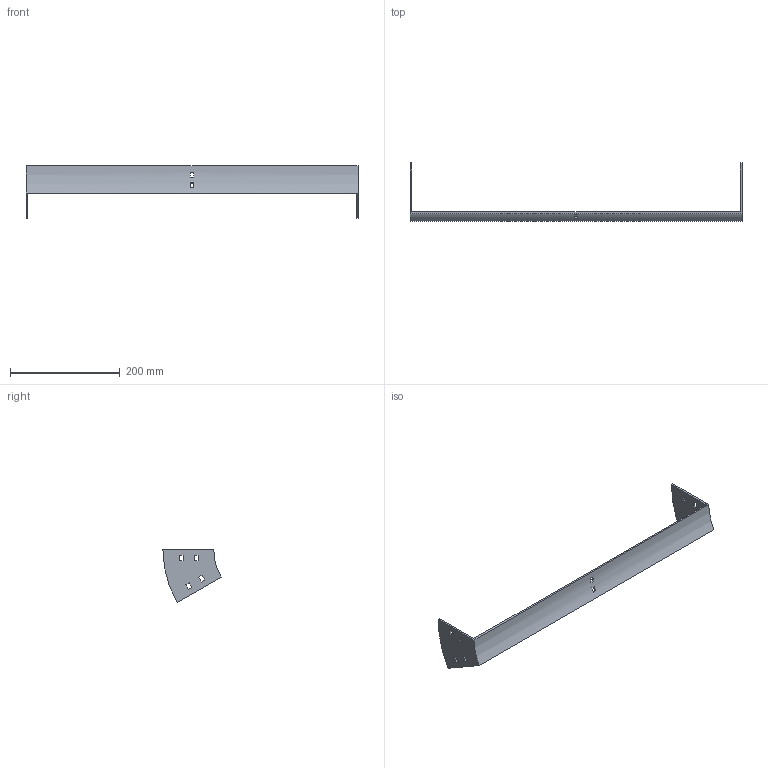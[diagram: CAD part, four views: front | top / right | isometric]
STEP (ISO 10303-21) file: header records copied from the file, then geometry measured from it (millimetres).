
FILE_DESCRIPTION (( 'STEP AP214' ), '1' );
FILE_NAME ('35B1I600.step', '2025-02-21T09:27:12', ( '' ), ( '' ), 'SwSTEP 2.0', 'SolidWorks 2023', '' );
FILE_SCHEMA (( 'AUTOMOTIVE_DESIGN' ));
Length unit declared in the file: millimetre
Products named in the file (1): 35B1I600
Bounding box: 604 x 105.9 x 96.25 mm (x, y, z)
Volume: 158528.6 mm3; surface area: 97933 mm2
Topology: 1 solids, 1 shells, 50 faces, 144 edges, 96 vertices
Faces by surface type: plane 46, cylinder 4
Entity records: 1687 total; most frequent: CARTESIAN_POINT 291, ORIENTED_EDGE 288, DIRECTION 262, EDGE_CURVE 144, LINE 128, VECTOR 128, VERTEX_POINT 96, EDGE_LOOP 70
